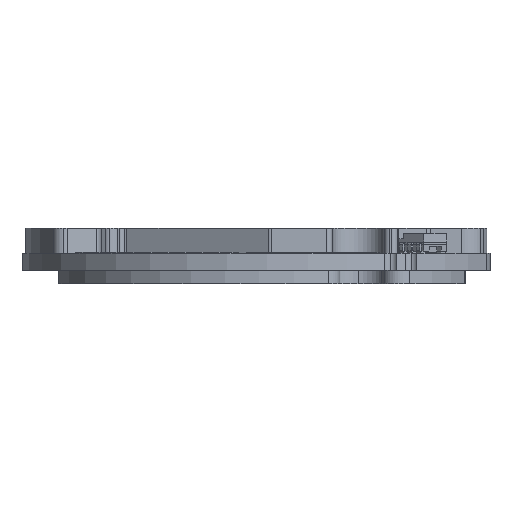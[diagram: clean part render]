
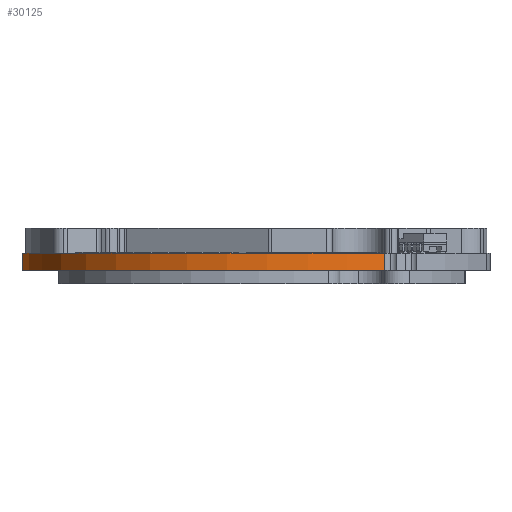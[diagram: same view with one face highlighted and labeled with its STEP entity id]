
A CAD part, left-side view. The second image highlights one B-rep face of the part: STEP entity #30125.
In plain terms, the highlighted cylindrical face has radius 22.4 mm (diameter 44.8 mm), a partial arc.
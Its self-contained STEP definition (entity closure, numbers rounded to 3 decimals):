
#268 = DIRECTION ( 'NONE',  ( 0., 0., 1. ) ) ;
#348 = VECTOR ( 'NONE', #35237, 1000. ) ;
#926 = LINE ( 'NONE', #27726, #348 ) ;
#2583 = CARTESIAN_POINT ( 'NONE',  ( 0., 0., -1.594 ) ) ;
#3827 = ORIENTED_EDGE ( 'NONE', *, *, #42968, .T. ) ;
#5187 = ORIENTED_EDGE ( 'NONE', *, *, #8943, .F. ) ;
#6700 = DIRECTION ( 'NONE',  ( 0., 0., 1. ) ) ;
#6777 = CARTESIAN_POINT ( 'NONE',  ( 0., 0., 0. ) ) ;
#7618 = CARTESIAN_POINT ( 'NONE',  ( -19.566, -10.906, 0. ) ) ;
#8322 = DIRECTION ( 'NONE',  ( 0., 0., -1. ) ) ;
#8943 = EDGE_CURVE ( 'NONE', #22883, #42941, #926, .T. ) ;
#9277 = EDGE_CURVE ( 'NONE', #42941, #19040, #16351, .T. ) ;
#10186 = DIRECTION ( 'NONE',  ( 0., 0., 1. ) ) ;
#10260 = CARTESIAN_POINT ( 'NONE',  ( -19.566, -10.906, -1.594 ) ) ;
#11154 = ORIENTED_EDGE ( 'NONE', *, *, #29219, .T. ) ;
#12057 = EDGE_LOOP ( 'NONE', ( #3827, #11154, #39916, #5187 ) ) ;
#12353 = LINE ( 'NONE', #10260, #38873 ) ;
#16351 = CIRCLE ( 'NONE', #27221, 22.4 ) ;
#16461 = CARTESIAN_POINT ( 'NONE',  ( -19.566, -10.906, -1.594 ) ) ;
#19040 = VERTEX_POINT ( 'NONE', #7618 ) ;
#19786 = CARTESIAN_POINT ( 'NONE',  ( -1.68, 22.337, -1.594 ) ) ;
#19836 = FACE_OUTER_BOUND ( 'NONE', #12057, .T. ) ;
#20326 = CARTESIAN_POINT ( 'NONE',  ( 0., 0., -1.594 ) ) ;
#20540 = DIRECTION ( 'NONE',  ( 0.42, -0.908, 0. ) ) ;
#22883 = VERTEX_POINT ( 'NONE', #19786 ) ;
#26177 = CIRCLE ( 'NONE', #40696, 22.4 ) ;
#27221 = AXIS2_PLACEMENT_3D ( 'NONE', #6777, #10186, #28110 ) ;
#27726 = CARTESIAN_POINT ( 'NONE',  ( -1.68, 22.337, -1.594 ) ) ;
#28110 = DIRECTION ( 'NONE',  ( 0.42, -0.908, 0. ) ) ;
#29219 = EDGE_CURVE ( 'NONE', #44307, #19040, #12353, .T. ) ;
#30125 = ADVANCED_FACE ( 'NONE', ( #19836 ), #36060, .T. ) ;
#35237 = DIRECTION ( 'NONE',  ( 0., 0., 1. ) ) ;
#36060 = CYLINDRICAL_SURFACE ( 'NONE', #44755, 22.4 ) ;
#37845 = CARTESIAN_POINT ( 'NONE',  ( -1.68, 22.337, 0. ) ) ;
#38873 = VECTOR ( 'NONE', #268, 1000. ) ;
#39466 = DIRECTION ( 'NONE',  ( 0.42, -0.908, 0. ) ) ;
#39916 = ORIENTED_EDGE ( 'NONE', *, *, #9277, .F. ) ;
#40696 = AXIS2_PLACEMENT_3D ( 'NONE', #20326, #6700, #20540 ) ;
#42941 = VERTEX_POINT ( 'NONE', #37845 ) ;
#42968 = EDGE_CURVE ( 'NONE', #22883, #44307, #26177, .T. ) ;
#44307 = VERTEX_POINT ( 'NONE', #16461 ) ;
#44755 = AXIS2_PLACEMENT_3D ( 'NONE', #2583, #8322, #39466 ) ;
